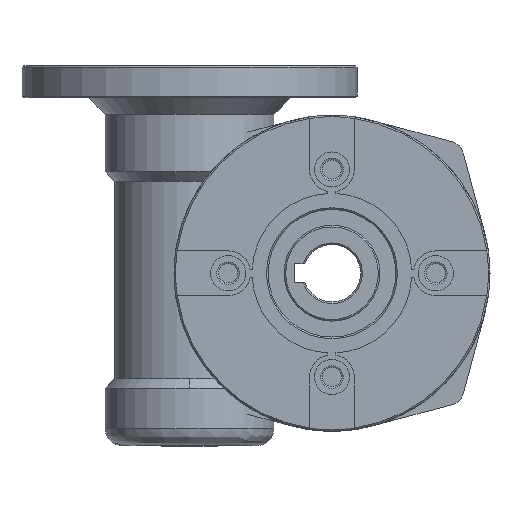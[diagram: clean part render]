
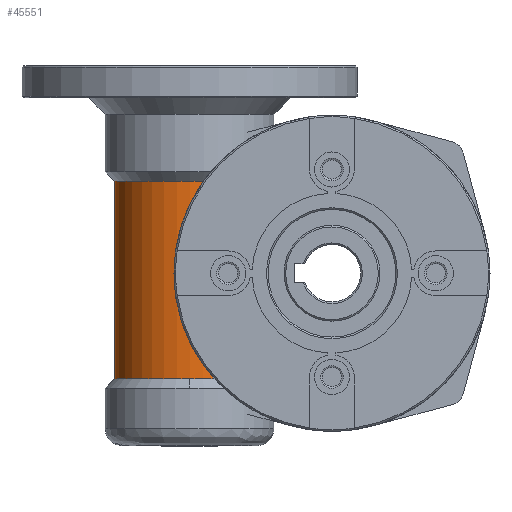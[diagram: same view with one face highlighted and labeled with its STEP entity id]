
A CAD part, left-side view. The second image highlights one B-rep face of the part: STEP entity #45551.
In plain terms, the highlighted cylindrical face has radius 23.4 mm (diameter 46.8 mm), a partial arc.
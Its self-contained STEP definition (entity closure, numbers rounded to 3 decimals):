
#998 = EDGE_CURVE ( 'NONE', #26816, #19370, #23024, .T. ) ;
#1783 = CARTESIAN_POINT ( 'NONE',  ( -41.75, 19.515, 23.251 ) ) ;
#1913 = FACE_OUTER_BOUND ( 'NONE', #5749, .T. ) ;
#2092 = EDGE_CURVE ( 'NONE', #32369, #19370, #47574, .T. ) ;
#2737 = CARTESIAN_POINT ( 'NONE',  ( -41.75, 19.515, 59.501 ) ) ;
#4378 = DIRECTION ( 'NONE',  ( 0., 0., 1. ) ) ;
#5749 = EDGE_LOOP ( 'NONE', ( #21969, #27822, #42617, #16768, #17793 ) ) ;
#8034 = CARTESIAN_POINT ( 'NONE',  ( -65.15, 42.915, -38.499 ) ) ;
#8130 = CARTESIAN_POINT ( 'NONE',  ( -41.75, 42.915, -38.499 ) ) ;
#8497 = AXIS2_PLACEMENT_3D ( 'NONE', #44298, #13491, #9915 ) ;
#9915 = DIRECTION ( 'NONE',  ( 0., -1., 0. ) ) ;
#11791 = CIRCLE ( 'NONE', #47338, 23.4 ) ;
#12593 = DIRECTION ( 'NONE',  ( 0., 0., 1. ) ) ;
#13254 = DIRECTION ( 'NONE',  ( 0., -1., 0. ) ) ;
#13491 = DIRECTION ( 'NONE',  ( 0., 0., 1. ) ) ;
#13542 = VECTOR ( 'NONE', #32930, 1000. ) ;
#16256 = DIRECTION ( 'NONE',  ( 0., -1., 0. ) ) ;
#16768 = ORIENTED_EDGE ( 'NONE', *, *, #998, .T. ) ;
#17523 = CARTESIAN_POINT ( 'NONE',  ( -41.75, 66.315, 59.501 ) ) ;
#17793 = ORIENTED_EDGE ( 'NONE', *, *, #2092, .F. ) ;
#19370 = VERTEX_POINT ( 'NONE', #1783 ) ;
#20792 = EDGE_CURVE ( 'NONE', #21128, #32369, #23716, .T. ) ;
#21128 = VERTEX_POINT ( 'NONE', #35281 ) ;
#21969 = ORIENTED_EDGE ( 'NONE', *, *, #20792, .F. ) ;
#23024 = LINE ( 'NONE', #2737, #47005 ) ;
#23716 = LINE ( 'NONE', #17523, #13542 ) ;
#26816 = VERTEX_POINT ( 'NONE', #48996 ) ;
#27286 = CARTESIAN_POINT ( 'NONE',  ( -41.75, 66.315, 23.251 ) ) ;
#27822 = ORIENTED_EDGE ( 'NONE', *, *, #42859, .T. ) ;
#28311 = CARTESIAN_POINT ( 'NONE',  ( -41.75, 42.915, 59.501 ) ) ;
#29027 = CIRCLE ( 'NONE', #40579, 23.4 ) ;
#29170 = AXIS2_PLACEMENT_3D ( 'NONE', #28311, #32165, #16256 ) ;
#29458 = DIRECTION ( 'NONE',  ( 0., 0., 1. ) ) ;
#32165 = DIRECTION ( 'NONE',  ( 0., 0., 1. ) ) ;
#32369 = VERTEX_POINT ( 'NONE', #27286 ) ;
#32930 = DIRECTION ( 'NONE',  ( 0., 0., 1. ) ) ;
#32988 = CYLINDRICAL_SURFACE ( 'NONE', #29170, 23.4 ) ;
#35281 = CARTESIAN_POINT ( 'NONE',  ( -41.75, 66.315, -38.499 ) ) ;
#36027 = DIRECTION ( 'NONE',  ( 0., -1., 0. ) ) ;
#40579 = AXIS2_PLACEMENT_3D ( 'NONE', #43219, #12593, #13254 ) ;
#41176 = VERTEX_POINT ( 'NONE', #8034 ) ;
#42617 = ORIENTED_EDGE ( 'NONE', *, *, #47554, .T. ) ;
#42859 = EDGE_CURVE ( 'NONE', #21128, #41176, #11791, .T. ) ;
#43219 = CARTESIAN_POINT ( 'NONE',  ( -41.75, 42.915, -38.499 ) ) ;
#44298 = CARTESIAN_POINT ( 'NONE',  ( -41.75, 42.915, 23.251 ) ) ;
#45551 = ADVANCED_FACE ( 'NONE', ( #1913 ), #32988, .T. ) ;
#47005 = VECTOR ( 'NONE', #29458, 1000. ) ;
#47338 = AXIS2_PLACEMENT_3D ( 'NONE', #8130, #4378, #36027 ) ;
#47554 = EDGE_CURVE ( 'NONE', #41176, #26816, #29027, .T. ) ;
#47574 = CIRCLE ( 'NONE', #8497, 23.4 ) ;
#48996 = CARTESIAN_POINT ( 'NONE',  ( -41.75, 19.515, -38.499 ) ) ;
